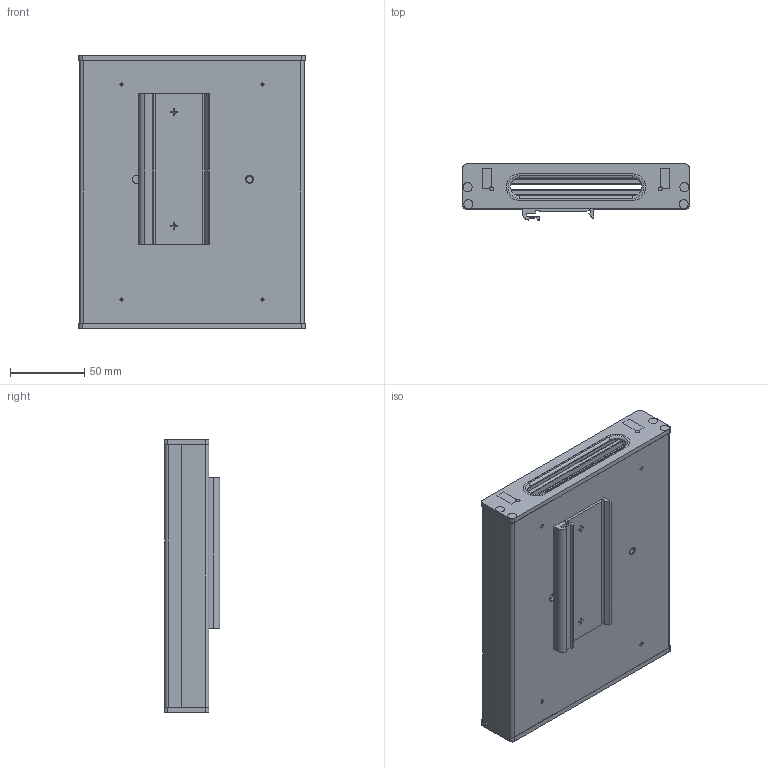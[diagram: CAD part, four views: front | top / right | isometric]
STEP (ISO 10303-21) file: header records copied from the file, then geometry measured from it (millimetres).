
FILE_DESCRIPTION((''),'2;1');
FILE_NAME('CD_SCB-264X','2011-08-15T',('jjorden'),(''),'PRO/ENGINEER BY PARAMETRIC TECHNOLOGY CORPORATION, 2010230','PRO/ENGINEER BY PARAMETRIC TECHNOLOGY CORPORATION, 2010230','');
FILE_SCHEMA(('CONFIG_CONTROL_DESIGN'));
Length unit declared in the file: inch
Products named in the file (1): CD_SCB-264X
Bounding box: 152.4 x 37.54 x 183.9 mm (x, y, z)
Volume: 202479.9 mm3; surface area: 169435.5 mm2
Topology: 5 solids, 5 shells, 551 faces, 1375 edges, 737 vertices
Faces by surface type: plane 183, cylinder 175, bspline 124, sphere 32, cone 28, torus 8, extrusion 1
Entity records: 18434 total; most frequent: CARTESIAN_POINT 6339, ORIENTED_EDGE 2510, DIRECTION 2351, EDGE_CURVE 1255, VERTEX_POINT 851, AXIS2_PLACEMENT_3D 817, VECTOR 717, LINE 716
